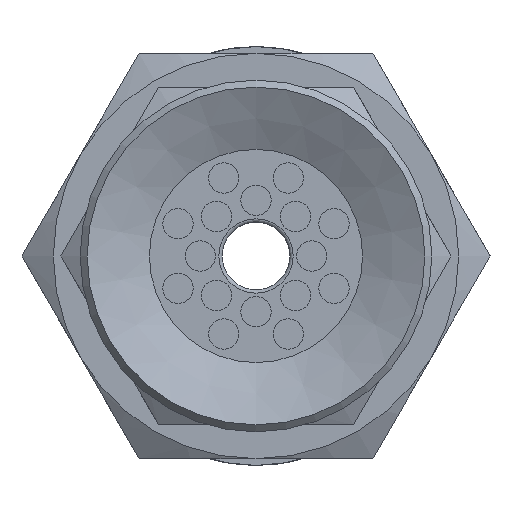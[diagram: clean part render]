
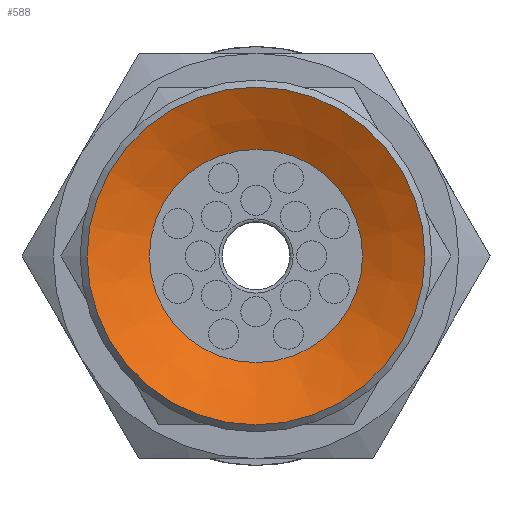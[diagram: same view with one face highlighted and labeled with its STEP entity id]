
A CAD part, front view. The second image highlights one B-rep face of the part: STEP entity #588.
In plain terms, the highlighted conical face has half-angle 64 degrees and reference radius 5 mm.
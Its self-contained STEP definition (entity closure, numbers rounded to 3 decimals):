
#588=ADVANCED_FACE('',(#989,#990),#991,.F.);
#989=FACE_BOUND('',#1673,.T.);
#990=FACE_OUTER_BOUND('',#1674,.T.);
#991=CONICAL_SURFACE('',#1675,5.0,1.117);
#1673=EDGE_LOOP('',(#2584));
#1674=EDGE_LOOP('',(#2585));
#1675=AXIS2_PLACEMENT_3D('',#2586,#2587,#2588);
#2584=ORIENTED_EDGE('',*,*,#3114,.T.);
#2585=ORIENTED_EDGE('',*,*,#3104,.F.);
#2586=CARTESIAN_POINT('',(0.0,0.,0.));
#2587=DIRECTION('',(0.0,0.,-1.0));
#2588=DIRECTION('',(0.0,1.0,0.));
#3104=EDGE_CURVE('',#3537,#3537,#3538,.T.);
#3114=EDGE_CURVE('',#3557,#3557,#3558,.T.);
#3537=VERTEX_POINT('',#4635);
#3538=CIRCLE('',#4636,5.0);
#3557=VERTEX_POINT('',#4655);
#3558=CIRCLE('',#4656,3.155);
#4635=CARTESIAN_POINT('',(0.0,-5.0,0.));
#4636=AXIS2_PLACEMENT_3D('',#5215,#5216,#5217);
#4655=CARTESIAN_POINT('',(0.0,-3.155,0.9));
#4656=AXIS2_PLACEMENT_3D('',#5245,#5246,#5247);
#5215=CARTESIAN_POINT('',(0.0,0.,0.));
#5216=DIRECTION('',(0.0,0.,1.0));
#5217=DIRECTION('',(0.0,-1.0,0.));
#5245=CARTESIAN_POINT('',(0.0,0.,0.9));
#5246=DIRECTION('',(0.0,0.,1.0));
#5247=DIRECTION('',(0.0,-1.0,0.));
